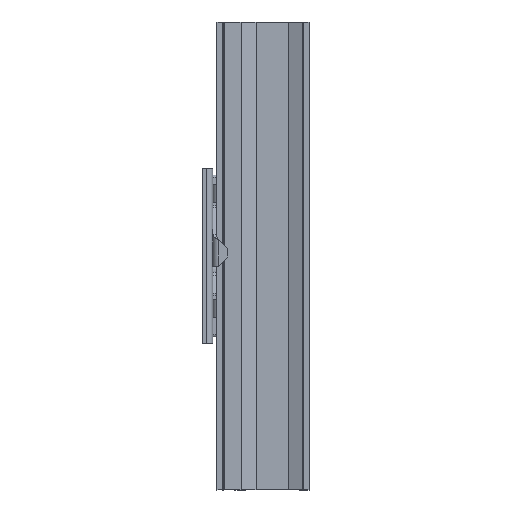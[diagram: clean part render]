
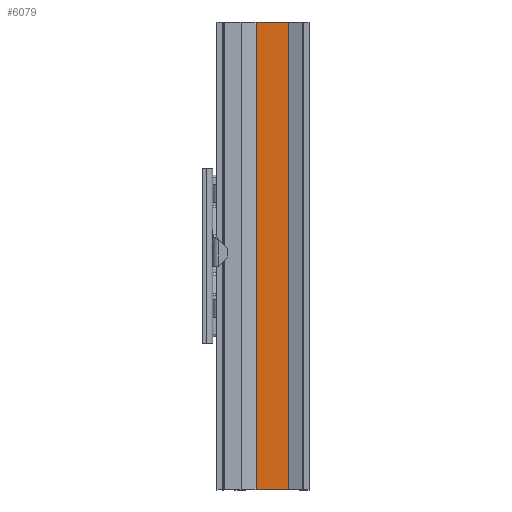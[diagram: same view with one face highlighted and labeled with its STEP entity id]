
A CAD part, left-side view. The second image highlights one B-rep face of the part: STEP entity #6079.
In plain terms, the highlighted planar face has unit normal (-1, 0, 0).
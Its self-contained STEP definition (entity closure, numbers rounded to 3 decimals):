
#337 = LINE ( 'NONE', #14976, #3952 ) ;
#368 = VERTEX_POINT ( 'NONE', #21503 ) ;
#2236 = CARTESIAN_POINT ( 'NONE',  ( -2., -31., 0. ) ) ;
#2417 = VECTOR ( 'NONE', #26045, 1000. ) ;
#3952 = VECTOR ( 'NONE', #13186, 1000. ) ;
#4241 = ORIENTED_EDGE ( 'NONE', *, *, #23746, .T. ) ;
#4883 = LINE ( 'NONE', #2236, #10083 ) ;
#5645 = VERTEX_POINT ( 'NONE', #26023 ) ;
#5859 = CARTESIAN_POINT ( 'NONE',  ( -2., -17., 0. ) ) ;
#6079 = ADVANCED_FACE ( 'NONE', ( #7943 ), #24811, .F. ) ;
#7943 = FACE_OUTER_BOUND ( 'NONE', #16685, .T. ) ;
#8045 = AXIS2_PLACEMENT_3D ( 'NONE', #5859, #14281, #23411 ) ;
#9432 = LINE ( 'NONE', #11771, #2417 ) ;
#10083 = VECTOR ( 'NONE', #23393, 1000. ) ;
#10585 = EDGE_CURVE ( 'NONE', #368, #25426, #4883, .T. ) ;
#11771 = CARTESIAN_POINT ( 'NONE',  ( -2., -17., -200. ) ) ;
#12978 = VERTEX_POINT ( 'NONE', #15340 ) ;
#13186 = DIRECTION ( 'NONE',  ( 0., -1., 0. ) ) ;
#14281 = DIRECTION ( 'NONE',  ( 1., 0., 0. ) ) ;
#14523 = ORIENTED_EDGE ( 'NONE', *, *, #18929, .T. ) ;
#14976 = CARTESIAN_POINT ( 'NONE',  ( -2., -17., 0. ) ) ;
#15340 = CARTESIAN_POINT ( 'NONE',  ( -2., -17., -200. ) ) ;
#16685 = EDGE_LOOP ( 'NONE', ( #22768, #22544, #4241, #14523 ) ) ;
#17356 = VECTOR ( 'NONE', #21635, 1000. ) ;
#17390 = EDGE_CURVE ( 'NONE', #5645, #368, #337, .T. ) ;
#18929 = EDGE_CURVE ( 'NONE', #12978, #25426, #9432, .T. ) ;
#19420 = CARTESIAN_POINT ( 'NONE',  ( -2., -17., 0. ) ) ;
#21503 = CARTESIAN_POINT ( 'NONE',  ( -2., -31., 0. ) ) ;
#21635 = DIRECTION ( 'NONE',  ( 0., 0., -1. ) ) ;
#22221 = CARTESIAN_POINT ( 'NONE',  ( -2., -31., -200. ) ) ;
#22544 = ORIENTED_EDGE ( 'NONE', *, *, #17390, .F. ) ;
#22768 = ORIENTED_EDGE ( 'NONE', *, *, #10585, .F. ) ;
#23393 = DIRECTION ( 'NONE',  ( 0., 0., -1. ) ) ;
#23411 = DIRECTION ( 'NONE',  ( 0., 1., 0. ) ) ;
#23426 = LINE ( 'NONE', #19420, #17356 ) ;
#23746 = EDGE_CURVE ( 'NONE', #5645, #12978, #23426, .T. ) ;
#24811 = PLANE ( 'NONE',  #8045 ) ;
#25426 = VERTEX_POINT ( 'NONE', #22221 ) ;
#26023 = CARTESIAN_POINT ( 'NONE',  ( -2., -17., 0. ) ) ;
#26045 = DIRECTION ( 'NONE',  ( 0., -1., 0. ) ) ;
